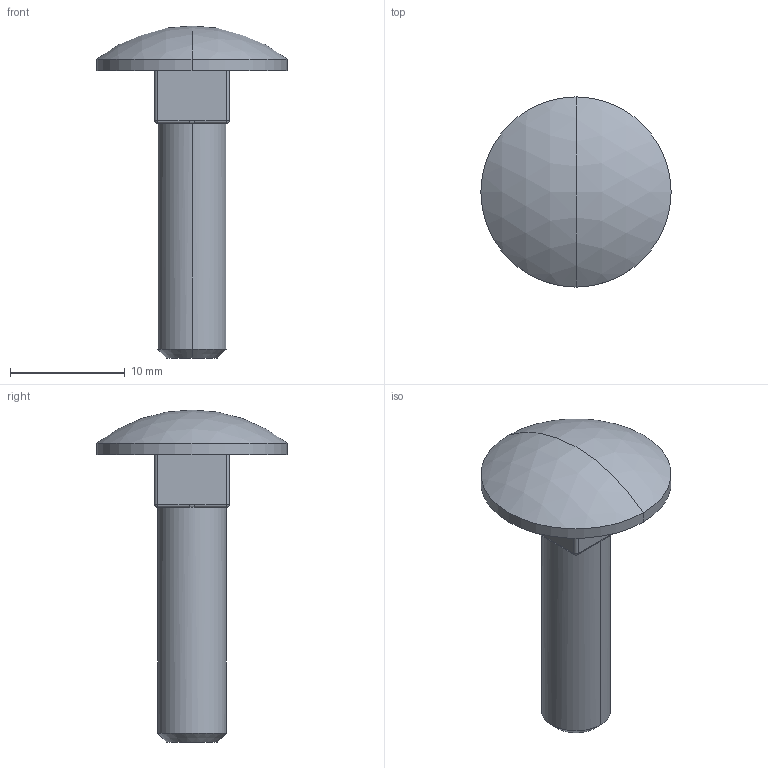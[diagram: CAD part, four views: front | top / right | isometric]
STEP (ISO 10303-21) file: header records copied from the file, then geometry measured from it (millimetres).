
FILE_DESCRIPTION (( 'STEP AP203' ), '1' );
FILE_NAME ('531499.STEP', '2023-03-03T21:36:52', ( '' ), ( '' ), 'SwSTEP 2.0', 'SolidWorks 2020', '' );
FILE_SCHEMA (( 'CONFIG_CONTROL_DESIGN' ));
Length unit declared in the file: millimetre
Products named in the file (1): 531499
Bounding box: 16.55 x 16.55 x 28.88 mm (x, y, z)
Volume: 1301.8 mm3; surface area: 998.2 mm2
Topology: 1 solids, 1 shells, 38 faces, 86 edges, 47 vertices
Faces by surface type: cylinder 16, plane 10, sphere 6, bspline 4, cone 2
Entity records: 1147 total; most frequent: CARTESIAN_POINT 236, DIRECTION 192, ORIENTED_EDGE 164, EDGE_CURVE 82, AXIS2_PLACEMENT_3D 79, VERTEX_POINT 47, CIRCLE 44, EDGE_LOOP 39
